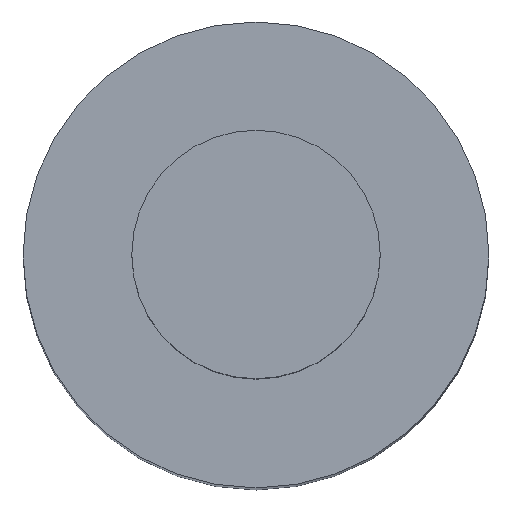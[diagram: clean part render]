
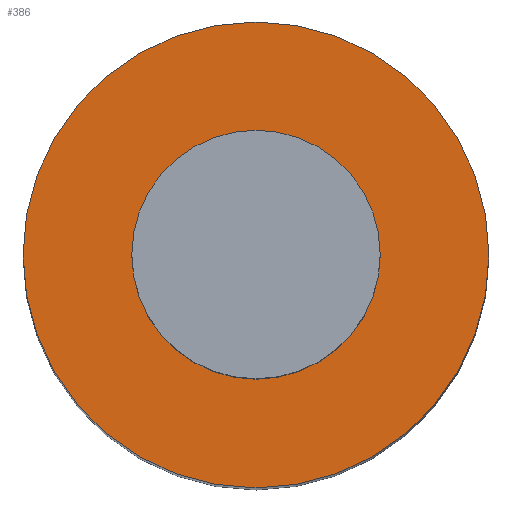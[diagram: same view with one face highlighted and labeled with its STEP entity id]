
A CAD part, top view. The second image highlights one B-rep face of the part: STEP entity #386.
In plain terms, the highlighted planar face has unit normal (0, 0, 1).
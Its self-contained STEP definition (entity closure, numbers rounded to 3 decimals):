
#113=CARTESIAN_POINT('',(0.,0.,-0.8));
#114=DIRECTION('',(0.,0.,-1.));
#115=DIRECTION('',(0.,1.,0.));
#116=AXIS2_PLACEMENT_3D('',#113,#114,#115);
#118=CARTESIAN_POINT('',(0.,0.,-0.8));
#119=DIRECTION('',(0.,0.,1.));
#120=DIRECTION('',(0.,1.,0.));
#121=AXIS2_PLACEMENT_3D('',#118,#119,#120);
#131=CARTESIAN_POINT('',(0.,0.,-0.8));
#132=DIRECTION('',(0.,0.,1.));
#133=DIRECTION('',(0.,1.,0.));
#134=AXIS2_PLACEMENT_3D('',#131,#132,#133);
#136=CARTESIAN_POINT('',(0.,0.,-0.8));
#137=DIRECTION('',(0.,0.,-1.));
#138=DIRECTION('',(0.,1.,0.));
#139=AXIS2_PLACEMENT_3D('',#136,#137,#138);
#165=CARTESIAN_POINT('',(0.,0.75,-0.8));
#166=VERTEX_POINT('',#165);
#167=CARTESIAN_POINT('',(0.,0.4,-0.8));
#169=VERTEX_POINT('',#167);
#183=CARTESIAN_POINT('',(0.,-0.75,-0.8));
#184=VERTEX_POINT('',#183);
#185=CARTESIAN_POINT('',(0.,-0.4,-0.8));
#187=VERTEX_POINT('',#185);
#371=CARTESIAN_POINT('',(0.,0.,-0.8));
#372=DIRECTION('',(0.,0.,-1.));
#373=DIRECTION('',(0.,-1.,0.));
#374=AXIS2_PLACEMENT_3D('',#371,#372,#373);
#375=PLANE('',#374);
#376=ORIENTED_EDGE('',*,*,#353,.T.);
#377=ORIENTED_EDGE('',*,*,#364,.F.);
#378=EDGE_LOOP('',(#376,#377));
#379=FACE_OUTER_BOUND('',#378,.F.);
#381=ORIENTED_EDGE('',*,*,#380,.T.);
#383=ORIENTED_EDGE('',*,*,#382,.F.);
#384=EDGE_LOOP('',(#381,#383));
#385=FACE_BOUND('',#384,.F.);
#386=ADVANCED_FACE('',(#379,#385),#375,.F.);
#117=CIRCLE('',#116,0.75);
#122=CIRCLE('',#121,0.75);
#135=CIRCLE('',#134,0.4);
#140=CIRCLE('',#139,0.4);
#353=EDGE_CURVE('',#166,#184,#117,.T.);
#364=EDGE_CURVE('',#166,#184,#122,.T.);
#380=EDGE_CURVE('',#169,#187,#135,.T.);
#382=EDGE_CURVE('',#169,#187,#140,.T.);
